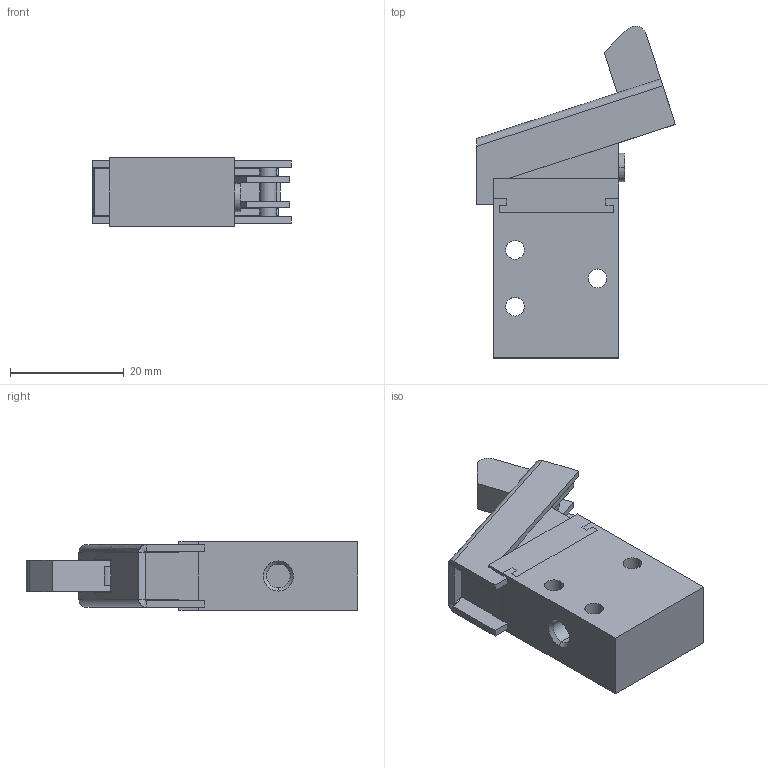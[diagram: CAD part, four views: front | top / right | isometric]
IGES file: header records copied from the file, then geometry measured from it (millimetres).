
Global section: file name: No Iges File Name specified; native system: AutoDesk Inventor R12.0; preprocessor: AutoDesk Inventor Iges Exporter R12.0; date: 20080225.141149; units: millimetre
Bounding box: 34.94 x 58.38 x 12 mm (x, y, z)
Volume: 10758.7 mm3; surface area: 6955.7 mm2
Topology: 3 solids, 3 shells, 108 faces, 273 edges, 178 vertices
Faces by surface type: plane 58, bspline 26, revolution 12, cylinder 12
